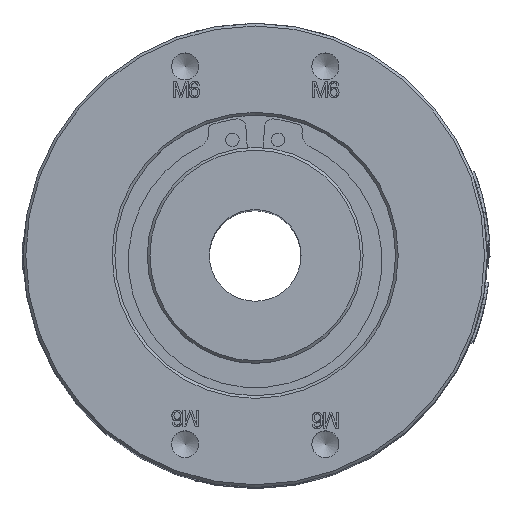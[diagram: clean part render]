
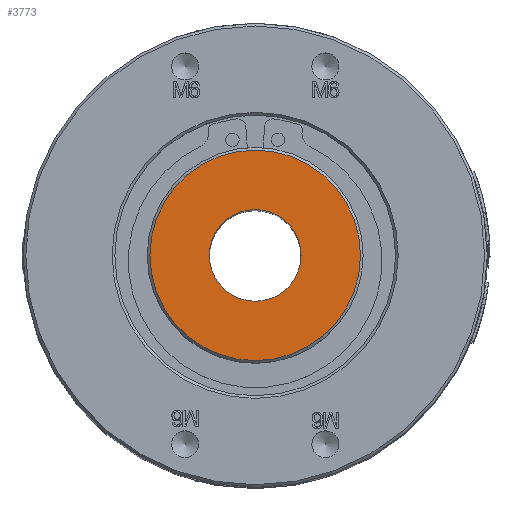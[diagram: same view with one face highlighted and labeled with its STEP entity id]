
A CAD part, top view. The second image highlights one B-rep face of the part: STEP entity #3773.
In plain terms, the highlighted planar face has unit normal (0, 0, 1).
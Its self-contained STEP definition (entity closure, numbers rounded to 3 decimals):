
#380=FACE_BOUND('',#11838,.T.);
#381=FACE_BOUND('',#11839,.T.);
#675=CIRCLE('',#41541,8.5);
#690=CIRCLE('',#41559,19.5);
#1310=PLANE('',#41560);
#3773=ADVANCED_FACE('',(#380,#381),#1310,.T.);
#11838=EDGE_LOOP('',(#20517));
#11839=EDGE_LOOP('',(#20518));
#20517=ORIENTED_EDGE('',*,*,#33142,.T.);
#20518=ORIENTED_EDGE('',*,*,#33163,.T.);
#27661=VERTEX_POINT('',#74798);
#27681=VERTEX_POINT('',#74842);
#33142=EDGE_CURVE('',#27661,#27661,#675,.T.);
#33163=EDGE_CURVE('',#27681,#27681,#690,.T.);
#41541=AXIS2_PLACEMENT_3D('',#74797,#44955,#44956);
#41559=AXIS2_PLACEMENT_3D('',#74841,#44997,#44998);
#41560=AXIS2_PLACEMENT_3D('',#74843,#44999,#45000);
#44955=DIRECTION('',(0.,0.,-1.));
#44956=DIRECTION('',(1.,0.,0.));
#44997=DIRECTION('',(0.,0.,1.));
#44998=DIRECTION('',(1.,0.,0.));
#44999=DIRECTION('',(0.,0.,1.));
#45000=DIRECTION('',(1.,0.,0.));
#74797=CARTESIAN_POINT('',(0.,0.,130.5));
#74798=CARTESIAN_POINT('',(8.5,0.,130.5));
#74841=CARTESIAN_POINT('',(0.,0.,130.5));
#74842=CARTESIAN_POINT('',(19.5,0.,130.5));
#74843=CARTESIAN_POINT('',(0.,0.,130.5));
